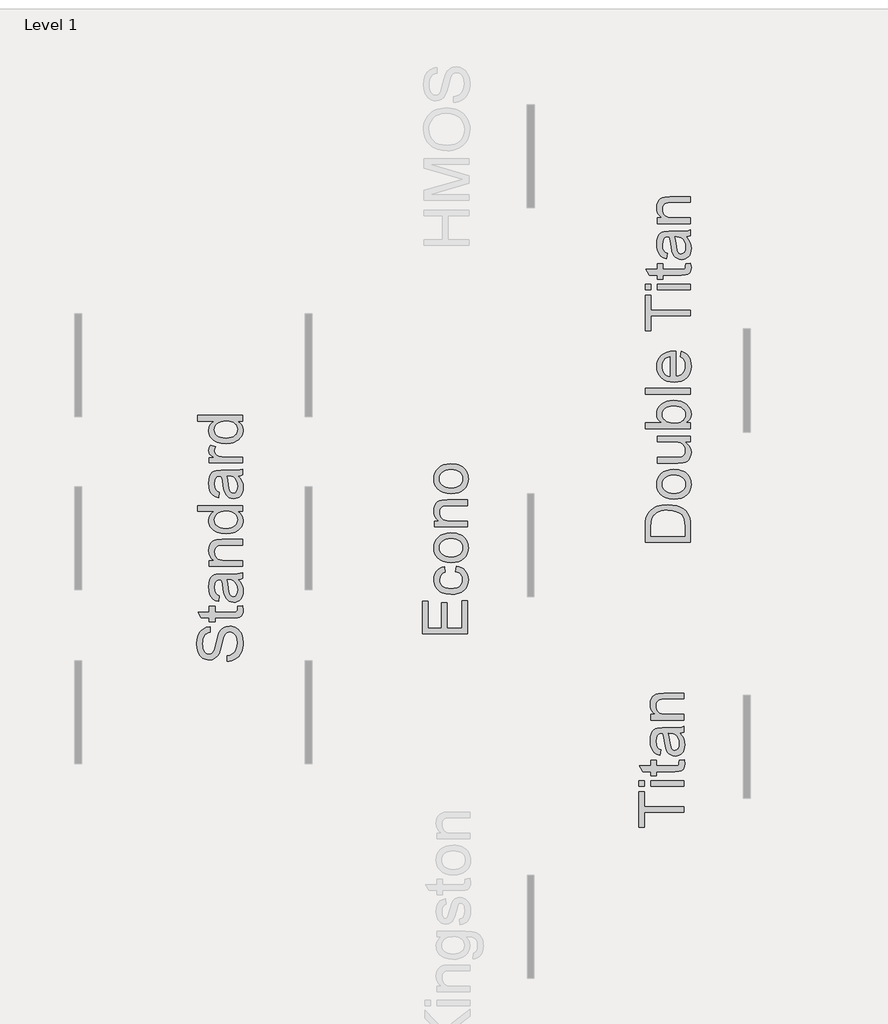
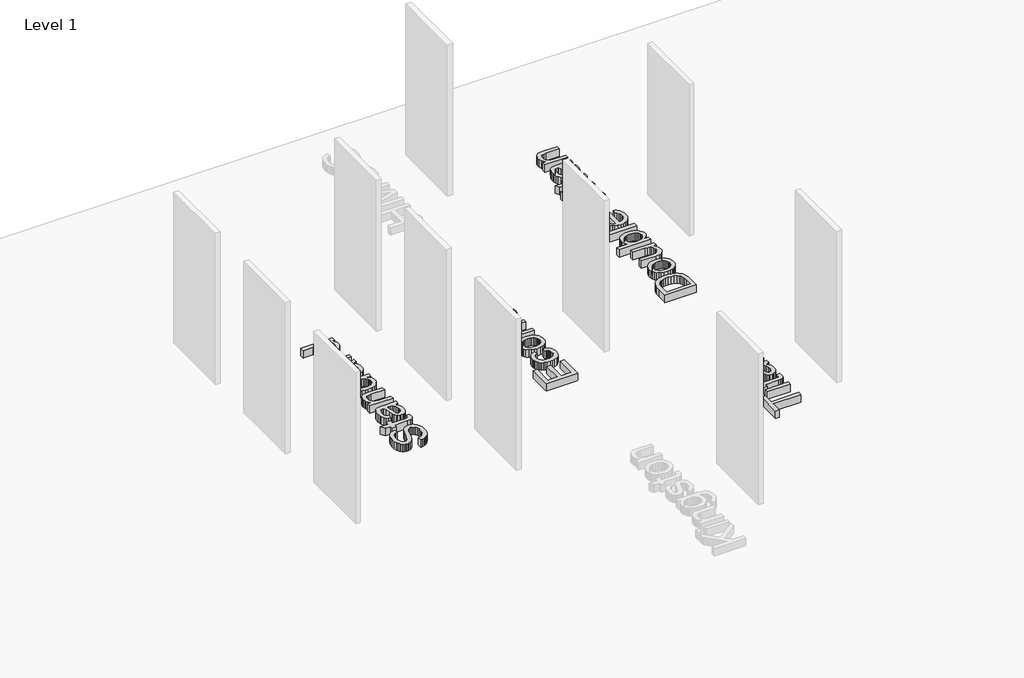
# One storey, part 5 of 6: 4 proxies.
"""IFC4 building model written with IfcOpenShell, lengths in millimetres."""

from ifc_helpers import new_model, si_unit, origin, origin_with_axes, place, context, project, spatial, polyline, outline, extrude, element, save

model = new_model("IFC4")

# Units and contexts
model_context = context("Model", 3, world=origin())
ifc_project = project(units=[si_unit("LENGTHUNIT", "METRE", prefix="MILLI")], contexts=[model_context])

# Site, building, storey
site = spatial("IfcSite", under=ifc_project)
building = spatial("IfcBuilding", under=site)
storey = spatial("IfcBuildingStorey", under=building, Name="Level 1", Elevation=0.0)

# Proxies
placement = place(None, origin())
element("IfcBuildingElementProxy", 1, Name="24\" Arial", ObjectType="24\" Arial", at=placement, inside=storey, context=model_context, shape_type="SweptSolid", body=[
    extrude(outline(polyline([(9013.1766658, 1934.229984), (8487.9828196, 1934.229984), (8487.9828196, 1737.2822917), (8412.9551273, 1737.2822917), (8412.9551273, 2206.2053686), (8487.9828196, 2206.2053686), (8487.9828196, 2009.2576763), (9013.1766658, 2009.2576763), (9013.1766658, 1934.229984)])), origin_with_axes(), (0.0, 0.0, 1.0), 152.4),
    extrude(outline(polyline([(8487.9828196, 2281.2330609), (8412.9551273, 2281.2330609), (8412.9551273, 2356.2607532), (8487.9828196, 2356.2607532), (8487.9828196, 2281.2330609)])), origin_with_axes(), (0.0, 0.0, 1.0), 152.4),
    extrude(outline(polyline([(9013.1766658, 2281.2330609), (8572.3889735, 2281.2330609), (8572.3889735, 2356.2607532), (9013.1766658, 2356.2607532), (9013.1766658, 2281.2330609)])), origin_with_axes(), (0.0, 0.0, 1.0), 152.4),
    extrude(outline(polyline([(8950.6047427, 2628.2361379), (9015.3747427, 2637.6145994), (9022.5551273, 2581.4903686), (9019.441185, 2545.4785417), (9010.0993581, 2518.6253686), (8995.7019542, 2499.6486379), (8977.4212812, 2487.2661379), (8946.0254158, 2480.4520994), (8892.282435, 2478.1807532), (8647.4166658, 2478.1807532), (8647.4166658, 2421.909984), (8572.3889735, 2421.909984), (8572.3889735, 2478.1807532), (8465.2693581, 2478.1807532), (8421.1612812, 2553.2084455), (8572.3889735, 2553.2084455), (8572.3889735, 2628.2361379), (8647.4166658, 2628.2361379), (8647.4166658, 2553.2084455), (8890.0843581, 2553.2084455), (8928.7705119, 2557.164984), (8942.4718581, 2569.9870994), (8946.2635408, 2580.8126282), (8947.527435, 2595.5580609), (8950.6047427, 2628.2361379)])), origin_with_axes(), (0.0, 0.0, 1.0), 152.4),
    extrude(outline(polyline([(8956.9058965, 2984.6176763), (8987.6423388, 2948.7707052), (9007.7547427, 2911.8613302), (9018.8550312, 2873.0469552), (9022.5551273, 2831.484984), (9020.3295744, 2798.0787941), (9013.6529158, 2768.7848398), (9002.5251513, 2743.603121), (8986.9462812, 2722.5336379), (8967.9054398, 2705.8969431), (8946.3917619, 2694.0135898), (8922.4052475, 2686.8835778), (8895.9458965, 2684.5069071), (8864.8431081, 2688.0970994), (8836.5978196, 2698.8676763), (8812.4189735, 2715.4814744), (8793.5155119, 2736.6013302), (8779.2280119, 2761.4212821), (8768.8970504, 2789.1353686), (8757.6135888, 2854.0519071), (8745.7439735, 2930.7647917), (8731.8228196, 2984.1780609), (8715.117435, 2984.6176763), (8681.6333965, 2979.4521955), (8669.2325792, 2972.9953446), (8659.7258965, 2963.9557532), (8650.2375312, 2948.3310898), (8643.4601273, 2929.2994071), (8638.0382042, 2881.014984), (8641.6467138, 2836.3207532), (8652.4722427, 2805.1080609), (8672.49306, 2783.8233494), (8703.687435, 2768.9130609), (8694.3089735, 2693.8853686), (8653.2782042, 2706.9089744), (8621.0397427, 2726.3436379), (8596.3846465, 2754.0027725), (8578.1039735, 2791.6997917), (8566.7838773, 2837.8044552), (8563.0105119, 2890.6865225), (8566.3442619, 2941.4071475), (8576.3455119, 2981.6136379), (8591.3840215, 3011.9287821), (8609.8295504, 3032.9753686), (8632.6345985, 3046.9331571), (8660.7516658, 3055.9819071), (8726.4008965, 3059.6453686), (8819.7458965, 3059.6453686), (8950.0918581, 3063.4553686), (8982.3120023, 3069.0970994), (9013.1766658, 3078.4022917), (9013.1766658, 3003.3745994), (8987.0928196, 2991.3584455), (8956.9058965, 2984.6176763)]), holes=[polyline([(8806.8505119, 2984.6176763), (8819.3429158, 2934.2084455), (8829.8570504, 2863.5769071), (8842.0197427, 2799.0267148), (8850.3358004, 2782.2297436), (8861.802435, 2769.7922917), (8875.5404158, 2762.0990225), (8890.6705119, 2759.5345994), (8912.9809927, 2765.1213782), (8931.2616658, 2781.8817148), (8943.4609927, 2809.4492629), (8947.527435, 2847.4576763), (8943.0396946, 2887.7557532), (8929.5764735, 2923.3645994), (8909.7388292, 2952.2326763), (8886.1278196, 2972.3084455), (8861.802435, 2981.2106571), (8828.0985888, 2984.1780609), (8806.8505119, 2984.6176763)])]), origin_with_axes(), (0.0, 0.0, 1.0), 152.4),
    extrude(outline(polyline([(9013.1766658, 3162.8084455), (8572.3889735, 3162.8084455), (8572.3889735, 3237.8361379), (8633.9351273, 3237.8361379), (8602.9056081, 3263.9016667), (8580.7416658, 3295.2059455), (8567.4433004, 3331.7489744), (8563.0105119, 3373.5307532), (8566.5823869, 3410.5133975), (8577.2980119, 3444.3820994), (8593.8202235, 3472.6273879), (8614.8118581, 3492.7397917), (8640.2179638, 3506.3861859), (8669.9835888, 3515.2334455), (8742.5201273, 3519.189984), (9013.1766658, 3519.189984), (9013.1766658, 3444.1622917), (8752.6312812, 3444.1622917), (8713.8352235, 3442.0008494), (8686.2493581, 3435.5165225), (8666.4849831, 3423.5553205), (8651.1533965, 3404.9632532), (8641.3170023, 3381.1324359), (8638.0382042, 3353.454984), (8639.8790937, 3330.6728326), (8645.4017619, 3309.5117629), (8654.606209, 3289.9717749), (8667.492435, 3272.0528686), (8685.5258244, 3257.0830489), (8710.1717619, 3246.3903205), (8741.4302475, 3239.9746835), (8779.3012812, 3237.8361379), (9013.1766658, 3237.8361379), (9013.1766658, 3162.8084455)])), origin_with_axes(), (0.0, 0.0, 1.0), 152.4),
])
element("IfcBuildingElementProxy", 2, Name="24\" Arial", ObjectType="24\" Arial", at=placement, inside=storey, context=model_context, shape_type="SweptSolid", body=[
    extrude(outline(polyline([(2925.8131328, 3944.4425803), (2925.8131328, 4019.4702726), (2967.4483732, 4028.0794073), (3000.9140943, 4043.6491188), (3027.4741905, 4067.9378688), (3048.3925559, 4102.7041188), (3061.9656809, 4145.2002726), (3066.4900559, 4192.6787342), (3063.0647193, 4234.4788303), (3052.7887097, 4271.0768111), (3036.5229405, 4300.7325323), (3015.1283251, 4321.7058496), (2990.5648155, 4334.1799361), (2964.7923636, 4338.337965), (2939.6793347, 4335.2240226), (2917.9733251, 4325.8821957), (2899.454527, 4306.905465), (2883.9031328, 4274.8868111), (2855.2548636, 4165.642388), (2836.2964501, 4093.9301284), (2818.253902, 4048.0452726), (2793.012652, 4010.6962823), (2762.4227482, 3984.2277726), (2727.1436136, 3968.4565707), (2687.8346713, 3963.1995034), (2665.4921352, 3964.8251645), (2643.8914501, 3969.7021476), (2623.032616, 3977.8304529), (2602.9156328, 3989.2100803), (2584.3602001, 4003.7128087), (2568.1860174, 4021.2104169), (2554.3930847, 4041.7029049), (2542.981402, 4065.1902726), (2527.6498155, 4117.9807534), (2522.5392866, 4176.412965), (2527.8879405, 4239.7175803), (2543.933902, 4295.1091188), (2555.8859453, 4319.3429169), (2570.3474597, 4340.6093111), (2587.3184453, 4358.9083015), (2606.798902, 4374.239888), (2628.2209934, 4386.4850082), (2651.0168828, 4395.5245996), (2675.1865703, 4401.3586621), (2700.7300559, 4403.9871957), (2700.7300559, 4328.9595034), (2676.7893347, 4323.9405611), (2655.9625559, 4315.184888), (2638.2497193, 4302.6924842), (2623.6508251, 4286.4633496), (2612.2391424, 4266.1952486), (2604.0879405, 4241.5859457), (2599.1972193, 4212.6354409), (2597.566979, 4179.3437342), (2599.178902, 4144.9896236), (2604.0146713, 4115.636138), (2612.0742866, 4091.2832775), (2623.3577482, 4071.9310419), (2636.9217145, 4057.1856092), (2651.8228443, 4046.6531573), (2668.0611376, 4040.3336861), (2685.6365943, 4038.2271957), (2700.7575318, 4039.7200563), (2714.4680366, 4044.198638), (2726.7681088, 4051.6629409), (2737.6577482, 4062.112965), (2747.9703924, 4078.5619073), (2758.3929405, 4104.4625803), (2779.5677482, 4184.6191188), (2799.680152, 4267.3400803), (2817.2281328, 4317.382965), (2844.447652, 4360.1538784), (2860.4478203, 4376.6898279), (2878.0415943, 4389.9927726), (2897.1373876, 4400.2184097), (2917.6436136, 4407.5224361), (2962.8873636, 4413.3656573), (2986.356414, 4411.6850443), (3009.1385655, 4406.6432053), (3031.2338179, 4398.2401404), (3052.6421713, 4386.4758496), (3072.5347674, 4371.5564025), (3090.0827482, 4353.6878688), (3105.2861136, 4332.8702486), (3118.1448636, 4309.1035419), (3128.3705006, 4283.079227), (3135.674527, 4255.4887823), (3141.5177482, 4195.6095034), (3139.9424597, 4157.2301645), (3135.2165943, 4122.1021476), (3127.340152, 4090.2254529), (3116.3131328, 4061.6000803), (3102.1172193, 4036.0520154), (3084.7340943, 4013.4072438), (3064.1637578, 3993.6657654), (3040.4062097, 3976.8275803), (3014.230777, 3963.263614), (2986.4067866, 3953.3447919), (2956.9342386, 3947.071114), (2925.8131328, 3944.4425803)])), origin_with_axes(), (0.0, 0.0, 1.0), 152.4),
    extrude(outline(polyline([(3069.5673636, 4675.9625803), (3134.3373636, 4685.3410419), (3141.5177482, 4629.2168111), (3138.4038059, 4593.2049842), (3129.061979, 4566.3518111), (3114.6645751, 4547.3750803), (3096.383902, 4534.9925803), (3064.9880366, 4528.1785419), (3011.2450559, 4525.9071957), (2766.3792866, 4525.9071957), (2766.3792866, 4469.6364265), (2691.3515943, 4469.6364265), (2691.3515943, 4525.9071957), (2584.231979, 4525.9071957), (2540.123902, 4600.934888), (2691.3515943, 4600.934888), (2691.3515943, 4675.9625803), (2766.3792866, 4675.9625803), (2766.3792866, 4600.934888), (3009.046979, 4600.934888), (3047.7331328, 4604.8914265), (3061.434479, 4617.7135419), (3065.2261616, 4628.5390707), (3066.4900559, 4643.2845034), (3069.5673636, 4675.9625803)])), origin_with_axes(), (0.0, 0.0, 1.0), 152.4),
    extrude(outline(polyline([(3075.8685174, 5032.3441188), (3106.6049597, 4996.4971476), (3126.7173636, 4959.5877726), (3137.817652, 4920.7733976), (3141.5177482, 4879.2114265), (3139.2921953, 4845.8052366), (3132.6155366, 4816.5112823), (3121.4877722, 4791.3295635), (3105.908902, 4770.2600803), (3086.8680607, 4753.6233856), (3065.3543828, 4741.7400323), (3041.3678684, 4734.6100202), (3014.9085174, 4732.2333496), (2983.805729, 4735.8235419), (2955.5604405, 4746.5941188), (2931.3815943, 4763.2079169), (2912.4781328, 4784.3277726), (2898.1906328, 4809.1477246), (2887.8596713, 4836.8618111), (2876.5762097, 4901.7783496), (2864.7065943, 4978.4912342), (2850.7854405, 5031.9045034), (2834.0800559, 5032.3441188), (2800.5960174, 5027.178638), (2788.1952001, 5020.7217871), (2778.6885174, 5011.6821957), (2769.200152, 4996.0575323), (2762.4227482, 4977.0258496), (2757.0008251, 4928.7414265), (2760.6093347, 4884.0471957), (2771.4348636, 4852.8345034), (2791.4556809, 4831.5497919), (2822.6500559, 4816.6395034), (2813.2715943, 4741.6118111), (2772.2408251, 4754.6354169), (2740.0023636, 4774.0700803), (2715.3472674, 4801.729215), (2697.0665943, 4839.4262342), (2685.7464982, 4885.5308976), (2681.9731328, 4938.412965), (2685.3068828, 4989.13359), (2695.3081328, 5029.3400803), (2710.3466424, 5059.6552246), (2728.7921713, 5080.7018111), (2751.5972193, 5094.6595996), (2779.7142866, 5103.7083496), (2845.3635174, 5107.3718111), (2938.7085174, 5107.3718111), (3069.054479, 5111.1818111), (3101.2746232, 5116.8235419), (3132.1392866, 5126.1287342), (3132.1392866, 5051.1010419), (3106.0554405, 5039.084888), (3075.8685174, 5032.3441188)]), holes=[polyline([(2925.8131328, 5032.3441188), (2938.3055366, 4981.934888), (2948.8196713, 4911.3033496), (2960.9823636, 4846.7531573), (2969.2984213, 4829.9561861), (2980.7650559, 4817.5187342), (2994.5030366, 4809.825465), (3009.6331328, 4807.2610419), (3031.9436136, 4812.8478207), (3050.2242866, 4829.6081573), (3062.4236136, 4857.1757053), (3066.4900559, 4895.1841188), (3062.0023155, 4935.4821957), (3048.5390943, 4971.0910419), (3028.7014501, 4999.9591188), (3005.0904405, 5020.034888), (2980.7650559, 5028.9370996), (2947.0612097, 5031.9045034), (2925.8131328, 5032.3441188)])]), origin_with_axes(), (0.0, 0.0, 1.0), 152.4),
    extrude(outline(polyline([(3132.1392866, 5210.534888), (2691.3515943, 5210.534888), (2691.3515943, 5285.5625803), (2752.8977482, 5285.5625803), (2721.868229, 5311.6281092), (2699.7042866, 5342.932388), (2686.4059213, 5379.4754169), (2681.9731328, 5421.2571957), (2685.5450078, 5458.23984), (2696.2606328, 5492.1085419), (2712.7828443, 5520.3538303), (2733.774479, 5540.4662342), (2759.1805847, 5554.1126284), (2788.9462097, 5562.959888), (2861.4827482, 5566.9164265), (3132.1392866, 5566.9164265), (3132.1392866, 5491.8887342), (2871.593902, 5491.8887342), (2832.7978443, 5489.7272919), (2805.211979, 5483.242965), (2785.447604, 5471.281763), (2770.1160174, 5452.6896957), (2760.2796232, 5428.8588784), (2757.0008251, 5401.1814265), (2758.8417145, 5378.3992751), (2764.3643828, 5357.2382053), (2773.5688299, 5337.6982174), (2786.4550559, 5319.7793111), (2804.4884453, 5304.8094914), (2829.1343828, 5294.116763), (2860.3928684, 5287.701126), (2898.263902, 5285.5625803), (3132.1392866, 5285.5625803), (3132.1392866, 5210.534888)])), origin_with_axes(), (0.0, 0.0, 1.0), 152.4),
    extrude(outline(polyline([(3132.1392866, 5942.054888), (3061.3612097, 5942.054888), (3096.4296953, 5919.6070275), (3121.4786136, 5892.4149842), (3136.5079645, 5860.4787582), (3141.5177482, 5823.7983496), (3139.7043347, 5799.0333496), (3134.2640943, 5775.2941188), (3125.197027, 5752.5806573), (3112.5031328, 5730.892965), (3096.5624958, 5710.9087823), (3077.7552001, 5693.3058496), (3056.0812458, 5678.0841669), (3031.5406328, 5665.2437342), (3004.6004525, 5655.0501525), (2975.7277963, 5647.7690226), (2912.1850559, 5641.9441188), (2849.4299597, 5647.31109), (2792.7562097, 5663.4120034), (2767.5058011, 5675.4831092), (2745.387652, 5690.2285419), (2726.4017626, 5707.6483015), (2710.5481328, 5727.742388), (2698.0465703, 5749.8010058), (2689.1168828, 5773.1143592), (2683.7590703, 5797.6824481), (2681.9731328, 5823.5052726), (2687.0836616, 5860.2131573), (2702.4152482, 5892.6714265), (2725.916354, 5920.1840226), (2755.5354405, 5942.054888), (2531.9177482, 5942.054888), (2531.9177482, 6017.0825803), (3132.1392866, 6017.0825803), (3132.1392866, 5942.054888)]), holes=[polyline([(2911.891979, 5716.9718111), (2948.2747314, 5719.0874601), (2979.757604, 5725.4344073), (3006.3405967, 5736.0126525), (3028.0237097, 5750.8221957), (3044.8527362, 5768.5075563), (3056.8734693, 5787.7132534), (3064.0859092, 5808.4392871), (3066.4900559, 5830.6856573), (3064.1958131, 5853.037352), (3057.3130847, 5873.6397438), (3045.8418708, 5892.4928327), (3029.7821713, 5909.5966188), (3009.005765, 5923.7971116), (2983.3844309, 5933.9403207), (2952.9181689, 5940.0262462), (2917.606979, 5942.054888), (2878.8933491, 5939.9896116), (2845.693229, 5933.7937823), (2818.0066184, 5923.4674001), (2795.8335174, 5909.010465), (2778.8442145, 5891.5311741), (2766.7089982, 5872.1377246), (2759.4278684, 5850.8301164), (2757.0008251, 5827.6083496), (2759.3317025, 5804.922364), (2766.3243347, 5784.1963303), (2777.9787217, 5765.4302486), (2794.2948636, 5748.6241188), (2815.6299477, 5734.7762342), (2842.3411616, 5724.884888), (2874.4285054, 5718.9500803), (2911.891979, 5716.9718111)])]), origin_with_axes(), (0.0, 0.0, 1.0), 152.4),
    extrude(outline(polyline([(3075.8685174, 6410.977965), (3106.6049597, 6375.1309938), (3126.7173636, 6338.2216188), (3137.817652, 6299.4072438), (3141.5177482, 6257.8452726), (3139.2921953, 6224.4390827), (3132.6155366, 6195.1451284), (3121.4877722, 6169.9634097), (3105.908902, 6148.8939265), (3086.8680607, 6132.2572318), (3065.3543828, 6120.3738784), (3041.3678684, 6113.2438664), (3014.9085174, 6110.8671957), (2983.805729, 6114.457388), (2955.5604405, 6125.227965), (2931.3815943, 6141.841763), (2912.4781328, 6162.9616188), (2898.1906328, 6187.7815707), (2887.8596713, 6215.4956573), (2876.5762097, 6280.4121957), (2864.7065943, 6357.1250803), (2850.7854405, 6410.5383496), (2834.0800559, 6410.977965), (2800.5960174, 6405.8124842), (2788.1952001, 6399.3556332), (2778.6885174, 6390.3160419), (2769.200152, 6374.6913784), (2762.4227482, 6355.6596957), (2757.0008251, 6307.3752726), (2760.6093347, 6262.6810419), (2771.4348636, 6231.4683496), (2791.4556809, 6210.183638), (2822.6500559, 6195.2733496), (2813.2715943, 6120.2456573), (2772.2408251, 6133.269263), (2740.0023636, 6152.7039265), (2715.3472674, 6180.3630611), (2697.0665943, 6218.0600803), (2685.7464982, 6264.1647438), (2681.9731328, 6317.0468111), (2685.3068828, 6367.7674361), (2695.3081328, 6407.9739265), (2710.3466424, 6438.2890707), (2728.7921713, 6459.3356573), (2751.5972193, 6473.2934457), (2779.7142866, 6482.3421957), (2845.3635174, 6486.0056573), (2938.7085174, 6486.0056573), (3069.054479, 6489.8156573), (3101.2746232, 6495.457388), (3132.1392866, 6504.7625803), (3132.1392866, 6429.734888), (3106.0554405, 6417.7187342), (3075.8685174, 6410.977965)]), holes=[polyline([(2925.8131328, 6410.977965), (2938.3055366, 6360.5687342), (2948.8196713, 6289.9371957), (2960.9823636, 6225.3870034), (2969.2984213, 6208.5900323), (2980.7650559, 6196.1525803), (2994.5030366, 6188.4593111), (3009.6331328, 6185.894888), (3031.9436136, 6191.4816669), (3050.2242866, 6208.2420034), (3062.4236136, 6235.8095515), (3066.4900559, 6273.817965), (3062.0023155, 6314.1160419), (3048.5390943, 6349.724888), (3028.7014501, 6378.592965), (3005.0904405, 6398.6687342), (2980.7650559, 6407.5709457), (2947.0612097, 6410.5383496), (2925.8131328, 6410.977965)])]), origin_with_axes(), (0.0, 0.0, 1.0), 152.4),
    extrude(outline(polyline([(3132.1392866, 6589.1687342), (2691.3515943, 6589.1687342), (2691.3515943, 6654.817965), (2756.5612097, 6654.817965), (2718.7542866, 6679.0700803), (2696.4804405, 6701.4171957), (2685.5999597, 6723.8375803), (2681.9731328, 6748.3095034), (2687.761402, 6785.6768111), (2705.1262097, 6823.6302726), (2772.3873636, 6798.5721957), (2760.8474597, 6772.1952726), (2757.0008251, 6745.8183496), (2760.7009213, 6723.4162823), (2771.8012097, 6703.395465), (2789.4590943, 6687.2212823), (2812.831979, 6676.3591188), (2854.741979, 6667.2370996), (2900.461979, 6664.1964265), (3132.1392866, 6664.1964265), (3132.1392866, 6589.1687342)])), origin_with_axes(), (0.0, 0.0, 1.0), 152.4),
    extrude(outline(polyline([(3132.1392866, 7142.497965), (3061.3612097, 7142.497965), (3096.4296953, 7120.0501044), (3121.4786136, 7092.8580611), (3136.5079645, 7060.9218351), (3141.5177482, 7024.2414265), (3139.7043347, 6999.4764265), (3134.2640943, 6975.7371957), (3125.197027, 6953.0237342), (3112.5031328, 6931.3360419), (3096.5624958, 6911.3518592), (3077.7552001, 6893.7489265), (3056.0812458, 6878.5272438), (3031.5406328, 6865.6868111), (3004.6004525, 6855.4932294), (2975.7277963, 6848.2120996), (2912.1850559, 6842.3871957), (2849.4299597, 6847.7541669), (2792.7562097, 6863.8550803), (2767.5058011, 6875.9261861), (2745.387652, 6890.6716188), (2726.4017626, 6908.0913784), (2710.5481328, 6928.185465), (2698.0465703, 6950.2440827), (2689.1168828, 6973.5574361), (2683.7590703, 6998.1255251), (2681.9731328, 7023.9483496), (2687.0836616, 7060.6562342), (2702.4152482, 7093.1145034), (2725.916354, 7120.6270996), (2755.5354405, 7142.497965), (2531.9177482, 7142.497965), (2531.9177482, 7217.5256573), (3132.1392866, 7217.5256573), (3132.1392866, 7142.497965)]), holes=[polyline([(2911.891979, 6917.414888), (2948.2747314, 6919.5305371), (2979.757604, 6925.8774842), (3006.3405967, 6936.4557294), (3028.0237097, 6951.2652726), (3044.8527362, 6968.9506332), (3056.8734693, 6988.1563303), (3064.0859092, 7008.882364), (3066.4900559, 7031.1287342), (3064.1958131, 7053.4804289), (3057.3130847, 7074.0828207), (3045.8418708, 7092.9359097), (3029.7821713, 7110.0396957), (3009.005765, 7124.2401885), (2983.3844309, 7134.3833976), (2952.9181689, 7140.4693231), (2917.606979, 7142.497965), (2878.8933491, 7140.4326885), (2845.693229, 7134.2368592), (2818.0066184, 7123.910477), (2795.8335174, 7109.4535419), (2778.8442145, 7091.974251), (2766.7089982, 7072.5808015), (2759.4278684, 7051.2731933), (2757.0008251, 7028.0514265), (2759.3317025, 7005.3654409), (2766.3243347, 6984.6394073), (2777.9787217, 6965.8733255), (2794.2948636, 6949.0671957), (2815.6299477, 6935.2193111), (2842.3411616, 6925.327965), (2874.4285054, 6919.3931573), (2911.891979, 6917.414888)])]), origin_with_axes(), (0.0, 0.0, 1.0), 152.4),
])
element("IfcBuildingElementProxy", 3, Name="24\" Arial", ObjectType="24\" Arial", at=placement, inside=storey, context=model_context, shape_type="SweptSolid", body=[
    extrude(outline(polyline([(9098.2881748, 5532.7447113), (8498.0666363, 5532.7447113), (8498.0666363, 5739.8035574), (8500.2280786, 5801.6794228), (8506.7124055, 5846.9231728), (8523.3811555, 5894.7679805), (8549.6481748, 5935.1393267), (8571.1160594, 5957.3856969), (8595.3681748, 5976.6463459), (8622.4045209, 5992.9212738), (8652.2250978, 6006.2104805), (8684.5551459, 6016.5322834), (8719.1199055, 6023.9049997), (8794.9535594, 6029.8031728), (8859.3755305, 6025.8099997), (8916.0675978, 6013.8304805), (8964.3337036, 5995.5864421), (9003.4777901, 5972.7997113), (9034.3790882, 5946.5693267), (9057.9168286, 5917.9943267), (9075.3732228, 5885.1880286), (9088.0304824, 5846.2637497), (9095.7237517, 5801.1482209), (9098.2881748, 5749.7681728), (9098.2881748, 5532.7447113)]), holes=[polyline([(9023.2604824, 5607.7724036), (9023.2604824, 5740.5362497), (9020.5495209, 5795.4515382), (9012.4166363, 5837.1050959), (8999.3380786, 5868.5375959), (8981.7900978, 5892.7897113), (8949.3135113, 5918.8552401), (8907.2752901, 5938.4364421), (8855.4922613, 5950.6907209), (8793.7812517, 5954.7754805), (8750.222694, 5952.7743147), (8712.0127901, 5946.7708171), (8679.1515401, 5936.7649877), (8651.638944, 5922.7568267), (8628.8522132, 5905.882007), (8610.1685594, 5887.2762017), (8595.5879824, 5866.9394108), (8585.1104824, 5844.8716344), (8576.0983671, 5801.7160574), (8573.0943286, 5738.4847113), (8573.0943286, 5607.7724036), (9023.2604824, 5607.7724036)])]), origin_with_axes(), (0.0, 0.0, 1.0), 152.4),
    extrude(outline(polyline([(8877.8943286, 6104.8308651), (8820.8084392, 6108.8881488), (8771.6173094, 6121.0599997), (8730.3209392, 6141.346418), (8696.9193286, 6169.7474036), (8675.5705065, 6198.3407209), (8660.3213478, 6229.9014421), (8651.1718526, 6264.4295671), (8648.1220209, 6301.9250959), (8651.835855, 6343.317632), (8662.9773574, 6380.7444709), (8681.5465281, 6414.2056127), (8707.5433671, 6443.7010574), (8740.0886435, 6467.7745791), (8778.3031267, 6484.9699517), (8822.1868166, 6495.2871752), (8871.7397132, 6498.7262497), (8911.9004103, 6497.2059132), (8947.5367324, 6492.6449036), (8978.6486796, 6485.0432209), (9005.2362517, 6474.4008651), (9028.2015762, 6460.8506368), (9048.4467805, 6444.5253363), (9065.9718647, 6425.4249637), (9080.7768286, 6403.549519), (9092.5411195, 6379.750757), (9100.9441844, 6354.8804324), (9105.9860233, 6328.9385454), (9107.6666363, 6301.9250959), (9103.9665401, 6259.9280887), (9092.8662517, 6222.1532209), (9074.3657709, 6188.6004925), (9048.4650978, 6159.2699036), (9015.6038478, 6135.4528243), (8976.2216363, 6118.4406247), (8930.3184632, 6108.233305), (8877.8943286, 6104.8308651)]), holes=[polyline([(8877.7477901, 6179.8585574), (8914.1397012, 6182.0291584), (8945.6500498, 6188.5409613), (8972.2788358, 6199.3939661), (8994.0260594, 6214.5881728), (9010.9191964, 6233.0703363), (9022.9857228, 6253.7872113), (9030.2256387, 6276.7387978), (9032.638944, 6301.9250959), (9030.2119007, 6326.9831728), (9022.9307709, 6349.8431728), (9010.7955546, 6370.5050959), (8993.8062517, 6388.9689421), (8971.8437998, 6404.1631488), (8944.7891363, 6415.0161536), (8912.6422613, 6421.5279565), (8875.4031748, 6423.6985574), (8840.1652541, 6421.5142185), (8809.4791844, 6414.9612017), (8783.3449656, 6404.039507), (8761.7625978, 6388.7491344), (8744.8694608, 6370.2165983), (8732.8029344, 6349.5684132), (8725.5630185, 6326.8045791), (8723.1497132, 6301.9250959), (8725.5538599, 6276.7387978), (8732.7662998, 6253.7872113), (8744.7870329, 6233.0703363), (8761.6160594, 6214.5881728), (8783.2991724, 6199.3939661), (8809.8821651, 6188.5409613), (8841.3650377, 6182.0291584), (8877.7477901, 6179.8585574)])]), origin_with_axes(), (0.0, 0.0, 1.0), 152.4),
    extrude(outline(polyline([(9098.2881748, 6864.4862497), (9022.5277901, 6864.4862497), (9059.7760353, 6837.3399997), (9086.3819248, 6805.7243267), (9102.3454584, 6769.6392305), (9107.6666363, 6729.0847113), (9103.9299055, 6692.5416824), (9092.7197132, 6658.5264421), (9075.8677901, 6629.9880767), (9055.2058671, 6609.8756728), (9030.1111555, 6596.3391824), (8999.9608671, 6587.5285574), (8930.2085594, 6583.1324036), (8657.5004824, 6583.1324036), (8657.5004824, 6658.1600959), (8894.8927901, 6658.1600959), (8942.3712517, 6659.295769), (8971.3858671, 6662.7027882), (8996.9018767, 6673.6382209), (9016.2999055, 6692.3768267), (9028.5541844, 6717.6730286), (9032.638944, 6748.2812497), (9028.4625978, 6780.6479324), (9015.9335594, 6810.9264421), (8996.205819, 6835.8929324), (8970.4333671, 6852.3235574), (8935.1359151, 6861.4455767), (8886.8331748, 6864.4862497), (8657.5004824, 6864.4862497), (8657.5004824, 6939.5139421), (9098.2881748, 6939.5139421), (9098.2881748, 6864.4862497)])), origin_with_axes(), (0.0, 0.0, 1.0), 152.4),
    extrude(outline(polyline([(9098.2881748, 7117.7047113), (9098.2881748, 7042.677019), (8498.0666363, 7042.677019), (8498.0666363, 7117.7047113), (8720.6585594, 7117.7047113), (8688.9238238, 7142.3781247), (8666.2561555, 7170.2387497), (8652.6555546, 7201.2865863), (8648.1220209, 7235.5216344), (8652.2067805, 7274.1711536), (8664.4610594, 7310.6958651), (8684.1155305, 7343.0075959), (8710.4008671, 7369.0181728), (8743.0606267, 7389.4053363), (8781.8383671, 7404.8468267), (8825.1221651, 7414.5733171), (8871.3000978, 7417.8154805), (8924.5851459, 7414.4588339), (8971.4591363, 7404.388894), (9011.922069, 7387.6056608), (9045.973944, 7364.1091344), (9072.9644969, 7335.9050598), (9092.2434632, 7304.9991824), (9103.810843, 7271.3915022), (9107.6666363, 7235.082019), (9102.6934873, 7199.7204565), (9087.7740401, 7168.3703844), (9062.9082949, 7141.0318026), (9028.0962517, 7117.7047113), (9098.2881748, 7117.7047113)]), holes=[polyline([(8874.8170209, 7117.7047113), (8937.388944, 7122.8335574), (8961.0915401, 7129.2446151), (8979.7385594, 7138.2200959), (9002.8824776, 7156.4000238), (9019.4138478, 7177.5290382), (9029.3326699, 7201.6071392), (9032.638944, 7228.6343267), (9030.2027421, 7251.0730286), (9022.8941363, 7271.9364421), (9010.7131267, 7291.2245671), (8993.6597132, 7308.9374036), (8971.7796892, 7323.7469469), (8945.1188478, 7334.3251921), (8913.6771892, 7340.6721392), (8877.4547132, 7342.7877882), (8840.5453382, 7340.7591464), (8808.801444, 7334.6732209), (8782.2230305, 7324.5300118), (8760.8100978, 7310.329519), (8744.3336796, 7293.2532089), (8732.5648094, 7274.4825478), (8725.5034873, 7254.0175358), (8723.1497132, 7231.8581728), (8725.5859151, 7209.4194709), (8732.8945209, 7188.5560574), (8745.0755305, 7169.2679324), (8762.128944, 7151.5550959), (8783.7891603, 7136.7455526), (8809.7905786, 7126.1673074), (8840.1331988, 7119.8203603), (8874.8170209, 7117.7047113)])]), origin_with_axes(), (0.0, 0.0, 1.0), 152.4),
    extrude(outline(polyline([(9098.2881748, 7502.2216344), (8498.0666363, 7502.2216344), (8498.0666363, 7577.2493267), (9098.2881748, 7577.2493267), (9098.2881748, 7502.2216344)])), origin_with_axes(), (0.0, 0.0, 1.0), 152.4),
    extrude(outline(polyline([(8966.9897132, 7998.4008651), (8976.3681748, 8071.9631728), (9005.8315642, 8060.6842906), (9031.7963478, 8045.4580286), (9054.2625257, 8026.2843868), (9073.2300978, 8003.1633651), (9088.2960834, 7976.3330887), (9099.0575017, 7946.0316824), (9105.5143526, 7912.2591464), (9107.6666363, 7875.0154805), (9103.9528022, 7828.462043), (9092.8112998, 7786.9824997), (9074.2421291, 7750.5768507), (9048.2452901, 7719.2450959), (9015.5443166, 7694.0496392), (8976.8627421, 7676.0528844), (8932.2005666, 7665.2548315), (8881.5577901, 7661.6554805), (8829.1977661, 7665.2914661), (8783.0473094, 7676.1994228), (8743.1064199, 7694.3793507), (8709.3750978, 7719.8312497), (8682.5768767, 7751.0805767), (8663.4352901, 7786.6527882), (8651.9503382, 7826.5478844), (8648.1220209, 7870.7658651), (8651.9411796, 7913.5596752), (8663.3986555, 7952.2595671), (8682.4944488, 7986.8655406), (8709.2285594, 8017.3775959), (8742.8866123, 8042.284555), (8782.7542324, 8060.0752401), (8828.8314199, 8070.7496512), (8881.1181748, 8074.3077882), (8901.3404824, 8073.8681728), (8901.3404824, 7736.6831728), (8931.2801219, 7741.0289541), (8957.5013478, 7749.670144), (8980.0041603, 7762.6067425), (8998.7885594, 7779.8387497), (9013.5981026, 7800.4136656), (9024.1763478, 7823.3789901), (9030.5232949, 7848.7347233), (9032.638944, 7876.4808651), (9028.7190401, 7916.4125959), (9016.9593286, 7950.0431728), (8996.6271171, 7977.3725959), (8966.9897132, 7998.4008651)]), holes=[polyline([(8826.3127901, 7736.6831728), (8826.3127901, 7999.2800959), (8786.6741363, 7989.1323074), (8771.0861074, 7980.4041103), (8758.318944, 7969.2397113), (8742.9324055, 7948.7792786), (8731.9420209, 7925.4979805), (8725.3477901, 7899.3958171), (8723.1497132, 7870.4727882), (8724.9035954, 7844.0912858), (8730.1652421, 7819.8987017), (8738.9346531, 7797.8950358), (8751.2118286, 7778.0802882), (8766.428932, 7761.4527522), (8784.0181267, 7749.0107209), (8803.9794127, 7740.7541945), (8826.3127901, 7736.6831728)])]), origin_with_axes(), (0.0, 0.0, 1.0), 152.4),
    extrude(outline(polyline([(9098.2881748, 8543.2308651), (8573.0943286, 8543.2308651), (8573.0943286, 8346.2831728), (8498.0666363, 8346.2831728), (8498.0666363, 8815.2062497), (8573.0943286, 8815.2062497), (8573.0943286, 8618.2585574), (9098.2881748, 8618.2585574), (9098.2881748, 8543.2308651)])), origin_with_axes(), (0.0, 0.0, 1.0), 152.4),
    extrude(outline(polyline([(9098.2881748, 8890.2339421), (8657.5004824, 8890.2339421), (8657.5004824, 8965.2616344), (9098.2881748, 8965.2616344), (9098.2881748, 8890.2339421)])), origin_with_axes(), (0.0, 0.0, 1.0), 152.4),
    extrude(outline(polyline([(8573.0943286, 8890.2339421), (8498.0666363, 8890.2339421), (8498.0666363, 8965.2616344), (8573.0943286, 8965.2616344), (8573.0943286, 8890.2339421)])), origin_with_axes(), (0.0, 0.0, 1.0), 152.4),
    extrude(outline(polyline([(9035.7162517, 9237.237019), (9100.4862517, 9246.6154805), (9107.6666363, 9190.4912497), (9104.552694, 9154.4794228), (9095.2108671, 9127.6262497), (9080.8134632, 9108.649519), (9062.5327901, 9096.267019), (9031.1369248, 9089.4529805), (8977.393944, 9087.1816344), (8732.5281748, 9087.1816344), (8732.5281748, 9030.9108651), (8657.5004824, 9030.9108651), (8657.5004824, 9087.1816344), (8550.3808671, 9087.1816344), (8506.2727901, 9162.2093267), (8657.5004824, 9162.2093267), (8657.5004824, 9237.237019), (8732.5281748, 9237.237019), (8732.5281748, 9162.2093267), (8975.1958671, 9162.2093267), (9013.8820209, 9166.1658651), (9027.5833671, 9178.9879805), (9031.3750498, 9189.8135094), (9032.638944, 9204.5589421), (9035.7162517, 9237.237019)])), origin_with_axes(), (0.0, 0.0, 1.0), 152.4),
    extrude(outline(polyline([(9042.0174055, 9593.6185574), (9072.7538478, 9557.7715863), (9092.8662517, 9520.8622113), (9103.9665401, 9482.0478363), (9107.6666363, 9440.4858651), (9105.4410834, 9407.0796752), (9098.7644248, 9377.7857209), (9087.6366603, 9352.6040022), (9072.0577901, 9331.534519), (9053.0169488, 9314.8978243), (9031.5032709, 9303.0144709), (9007.5167565, 9295.8844589), (8981.0574055, 9293.5077882), (8949.9546171, 9297.0979805), (8921.7093286, 9307.8685574), (8897.5304824, 9324.4823555), (8878.6270209, 9345.6022113), (8864.3395209, 9370.4221632), (8854.0085594, 9398.1362497), (8842.7250978, 9463.0527882), (8830.8554824, 9539.7656728), (8816.9343286, 9593.1789421), (8800.228944, 9593.6185574), (8766.7449055, 9588.4530767), (8754.3440882, 9581.9962257), (8744.8374055, 9572.9566344), (8735.3490401, 9557.3319709), (8728.5716363, 9538.3002882), (8723.1497132, 9490.0158651), (8726.7582228, 9445.3216344), (8737.5837517, 9414.1089421), (8757.604569, 9392.8242305), (8788.798944, 9377.9139421), (8779.4204824, 9302.8862497), (8738.3897132, 9315.9098555), (8706.1512517, 9335.344519), (8681.4961555, 9363.0036536), (8663.2154824, 9400.7006728), (8651.8953863, 9446.8053363), (8648.1220209, 9499.6874036), (8651.4557709, 9550.4080286), (8661.4570209, 9590.614519), (8676.4955305, 9620.9296632), (8694.9410594, 9641.9762497), (8717.7461074, 9655.9340382), (8745.8631748, 9664.9827882), (8811.5124055, 9668.6462497), (8904.8574055, 9668.6462497), (9035.2033671, 9672.4562497), (9067.4235113, 9678.0979805), (9098.2881748, 9687.4031728), (9098.2881748, 9612.3754805), (9072.2043286, 9600.3593267), (9042.0174055, 9593.6185574)]), holes=[polyline([(8891.9620209, 9593.6185574), (8904.4544248, 9543.2093267), (8914.9685594, 9472.5777882), (8927.1312517, 9408.0275959), (8935.4473094, 9391.2306247), (8946.913944, 9378.7931728), (8960.6519248, 9371.0999036), (8975.7820209, 9368.5354805), (8998.0925017, 9374.1222594), (9016.3731748, 9390.8825959), (9028.5725017, 9418.450144), (9032.638944, 9456.4585574), (9028.1512036, 9496.7566344), (9014.6879824, 9532.3654805), (8994.8503382, 9561.2335574), (8971.2393286, 9581.3093267), (8946.913944, 9590.2115382), (8913.2100978, 9593.1789421), (8891.9620209, 9593.6185574)])]), origin_with_axes(), (0.0, 0.0, 1.0), 152.4),
    extrude(outline(polyline([(9098.2881748, 9771.8093267), (8657.5004824, 9771.8093267), (8657.5004824, 9846.837019), (8719.0466363, 9846.837019), (8688.0171171, 9872.9025478), (8665.8531748, 9904.2068267), (8652.5548094, 9940.7498555), (8648.1220209, 9982.5316344), (8651.6938959, 10019.5142786), (8662.4095209, 10053.3829805), (8678.9317324, 10081.628269), (8699.9233671, 10101.7406728), (8725.3294728, 10115.3870671), (8755.0950978, 10124.2343267), (8827.6316363, 10128.1908651), (9098.2881748, 10128.1908651), (9098.2881748, 10053.1631728), (8837.7427901, 10053.1631728), (8798.9467324, 10051.0017305), (8771.3608671, 10044.5174036), (8751.5964921, 10032.5562017), (8736.2649055, 10013.9641344), (8726.4285113, 9990.1333171), (8723.1497132, 9962.4558651), (8724.9906026, 9939.6737137), (8730.5132709, 9918.512644), (8739.717718, 9898.972656), (8752.603944, 9881.0537497), (8770.6373334, 9866.08393), (8795.2832709, 9855.3912017), (8826.5417565, 9848.9755647), (8864.4127901, 9846.837019), (9098.2881748, 9846.837019), (9098.2881748, 9771.8093267)])), origin_with_axes(), (0.0, 0.0, 1.0), 152.4),
])
element("IfcBuildingElementProxy", 4, Name="24\" Arial", ObjectType="24\" Arial", at=placement, inside=storey, context=model_context, shape_type="SweptSolid", body=[
    extrude(outline(polyline([(6130.9511204, 4312.1579237), (5530.729582, 4312.1579237), (5530.729582, 4743.5671545), (5605.7572743, 4743.5671545), (5605.7572743, 4387.185616), (5783.9480435, 4387.185616), (5783.9480435, 4724.8102314), (5858.9757358, 4724.8102314), (5858.9757358, 4387.185616), (6055.9234281, 4387.185616), (6055.9234281, 4752.945616), (6130.9511204, 4752.945616), (6130.9511204, 4312.1579237)])), origin_with_axes(), (0.0, 0.0, 1.0), 152.4),
    extrude(outline(polyline([(5971.5172743, 5137.4625391), (5980.8957358, 5212.4902314), (6016.2985122, 5204.3298708), (6047.6256877, 5191.571866), (6074.8772622, 5174.216217), (6098.0532358, 5152.2629237), (6116.5491372, 5126.6370103), (6129.7604954, 5098.2635007), (6137.6873103, 5067.1423949), (6140.329582, 5033.273693), (6136.6432238, 4991.1942579), (6125.5841493, 4953.4651833), (6107.1523584, 4920.0864694), (6081.3478512, 4891.058116), (6048.6560363, 4867.5615896), (6009.5623223, 4850.7783564), (5964.0667094, 4840.7084165), (5912.1691973, 4837.3517699), (5845.4026108, 4843.0850872), (5815.3576469, 4850.2517338), (5787.5382358, 4860.2850391), (5762.5030555, 4873.253693), (5740.8107839, 4889.2263853), (5722.4614209, 4908.203116), (5707.4549666, 4930.1838853), (5695.7868416, 4954.174979), (5687.4524666, 4979.1826833), (5682.4518416, 5005.2069982), (5680.7849666, 5032.2479237), (5683.07463, 5065.5350511), (5689.9436204, 5095.6441257), (5701.3919377, 5122.5751473), (5717.419582, 5146.328116), (5737.660207, 5166.5000511), (5761.7474666, 5182.6879718), (5789.6813608, 5194.8918781), (5821.4618897, 5203.1117699), (5830.8403512, 5128.0840776), (5798.1073223, 5114.474318), (5774.6428512, 5093.281193), (5760.520207, 5065.6770103), (5755.8126589, 5032.8340776), (5758.1297983, 5007.3409646), (5765.0812166, 4984.3481641), (5776.6669137, 4963.8556761), (5792.8868897, 4945.8635007), (5814.1166493, 4931.2142338), (5840.7316973, 4920.7504718), (5872.7320339, 4914.4722146), (5910.1176589, 4912.3794622), (5948.0665411, 4914.4264213), (5980.4378031, 4920.5672987), (6007.2314449, 4930.8020944), (6028.4474666, 4945.1308083), (6044.5712767, 4962.7657963), (6056.0882839, 4982.9194141), (6062.9984882, 5005.5916617), (6065.3018897, 5030.7825391), (6059.550255, 5069.6335487), (6052.3607118, 5086.4350992), (6042.2953512, 5101.4873468), (6029.2442695, 5114.3689934), (6013.0975627, 5124.658741), (5993.855231, 5132.3565896), (5971.5172743, 5137.4625391)])), origin_with_axes(), (0.0, 0.0, 1.0), 152.4),
    extrude(outline(polyline([(5910.5572743, 5259.3825391), (5853.4713848, 5263.4398228), (5804.280255, 5275.6116737), (5762.9838848, 5295.898092), (5729.5822743, 5324.2990776), (5708.2334522, 5352.8923949), (5692.9842935, 5384.453116), (5683.8347983, 5418.981241), (5680.7849666, 5456.4767699), (5684.4988007, 5497.8693059), (5695.6403031, 5535.2961449), (5714.2094738, 5568.7572867), (5740.2063127, 5598.2527314), (5772.7515892, 5622.3262531), (5810.9660723, 5639.5216257), (5854.8497622, 5649.8388492), (5904.4026589, 5653.2779237), (5944.563356, 5651.7575872), (5980.1996781, 5647.1965776), (6011.3116252, 5639.5948949), (6037.8991973, 5628.9525391), (6060.8645219, 5615.4023107), (6081.1097262, 5599.0770103), (6098.6348103, 5579.9766377), (6113.4397743, 5558.101193), (6125.2040651, 5534.3024309), (6133.60713, 5509.4321064), (6138.648969, 5483.4902194), (6140.329582, 5456.4767699), (6136.6294858, 5414.4797627), (6125.5291973, 5376.7048949), (6107.0287166, 5343.1521665), (6081.1280435, 5313.8215776), (6048.2667935, 5290.0044982), (6008.884582, 5272.9922987), (5962.9814089, 5262.784979), (5910.5572743, 5259.3825391)]), holes=[polyline([(5910.4107358, 5334.4102314), (5946.8026469, 5336.5808324), (5978.3129954, 5343.0926353), (6004.9417815, 5353.9456401), (6026.689005, 5369.1398468), (6043.5821421, 5387.6220103), (6055.6486685, 5408.3388853), (6062.8885844, 5431.2904718), (6065.3018897, 5456.4767699), (6062.8748464, 5481.5348468), (6055.5937166, 5504.3948468), (6043.4585002, 5525.0567699), (6026.4691973, 5543.520616), (6004.5067454, 5558.7148228), (5977.452082, 5569.5678276), (5945.305207, 5576.0796305), (5908.0661204, 5578.2502314), (5872.8281997, 5576.0658925), (5842.14213, 5569.5128757), (5816.0079113, 5558.5911809), (5794.4255435, 5543.3008083), (5777.5324065, 5524.7682723), (5765.46588, 5504.1200872), (5758.2259642, 5481.3562531), (5755.8126589, 5456.4767699), (5758.2168055, 5431.2904718), (5765.4292454, 5408.3388853), (5777.4499786, 5387.6220103), (5794.279005, 5369.1398468), (5815.962118, 5353.9456401), (5842.5451108, 5343.0926353), (5874.0279834, 5336.5808324), (5910.4107358, 5334.4102314)])]), origin_with_axes(), (0.0, 0.0, 1.0), 152.4),
    extrude(outline(polyline([(6130.9511204, 5737.6840776), (5690.1634281, 5737.6840776), (5690.1634281, 5812.7117699), (5751.709582, 5812.7117699), (5720.6800627, 5838.7772987), (5698.5161204, 5870.0815776), (5685.217755, 5906.6246064), (5680.7849666, 5948.4063853), (5684.3568416, 5985.3890295), (5695.0724666, 6019.2577314), (5711.5946781, 6047.5030199), (5732.5863127, 6067.6154237), (5757.9924185, 6081.261818), (5787.7580435, 6090.1090776), (5860.294582, 6094.065616), (6130.9511204, 6094.065616), (6130.9511204, 6019.0379237), (5870.4057358, 6019.0379237), (5831.6096781, 6016.8764814), (5804.0238127, 6010.3921545), (5784.2594377, 5998.4309526), (5768.9278512, 5979.8388853), (5759.091457, 5956.008068), (5755.8126589, 5928.330616), (5757.6535483, 5905.5484646), (5763.1762166, 5884.3873949), (5772.3806637, 5864.8474069), (5785.2668897, 5846.9285007), (5803.3002791, 5831.9586809), (5827.9462166, 5821.2659526), (5859.2047022, 5814.8503156), (5897.0757358, 5812.7117699), (6130.9511204, 5812.7117699), (6130.9511204, 5737.6840776)])), origin_with_axes(), (0.0, 0.0, 1.0), 152.4),
    extrude(outline(polyline([(5910.5572743, 6178.4717699), (5853.4713848, 6182.5290535), (5804.280255, 6194.7009045), (5762.9838848, 6214.9873228), (5729.5822743, 6243.3883083), (5708.2334522, 6271.9816257), (5692.9842935, 6303.5423468), (5683.8347983, 6338.0704718), (5680.7849666, 6375.5660007), (5684.4988007, 6416.9585367), (5695.6403031, 6454.3853757), (5714.2094738, 6487.8465175), (5740.2063127, 6517.3419622), (5772.7515892, 6541.4154838), (5810.9660723, 6558.6108564), (5854.8497622, 6568.92808), (5904.4026589, 6572.3671545), (5944.563356, 6570.846818), (5980.1996781, 6566.2858083), (6011.3116252, 6558.6841257), (6037.8991973, 6548.0417699), (6060.8645219, 6534.4915415), (6081.1097262, 6518.166241), (6098.6348103, 6499.0658684), (6113.4397743, 6477.1904237), (6125.2040651, 6453.3916617), (6133.60713, 6428.5213372), (6138.648969, 6402.5794502), (6140.329582, 6375.5660007), (6136.6294858, 6333.5689934), (6125.5291973, 6295.7941257), (6107.0287166, 6262.2413973), (6081.1280435, 6232.9108083), (6048.2667935, 6209.093729), (6008.884582, 6192.0815295), (5962.9814089, 6181.8742098), (5910.5572743, 6178.4717699)]), holes=[polyline([(5910.4107358, 6253.4994622), (5946.8026469, 6255.6700632), (5978.3129954, 6262.181866), (6004.9417815, 6273.0348708), (6026.689005, 6288.2290776), (6043.5821421, 6306.711241), (6055.6486685, 6327.428116), (6062.8885844, 6350.3797026), (6065.3018897, 6375.5660007), (6062.8748464, 6400.6240776), (6055.5937166, 6423.4840776), (6043.4585002, 6444.1460007), (6026.4691973, 6462.6098468), (6004.5067454, 6477.8040535), (5977.452082, 6488.6570583), (5945.305207, 6495.1688612), (5908.0661204, 6497.3394622), (5872.8281997, 6495.1551232), (5842.14213, 6488.6021064), (5816.0079113, 6477.6804117), (5794.4255435, 6462.3900391), (5777.5324065, 6443.8575031), (5765.46588, 6423.209318), (5758.2259642, 6400.4454838), (5755.8126589, 6375.5660007), (5758.2168055, 6350.3797026), (5765.4292454, 6327.428116), (5777.4499786, 6306.711241), (5794.279005, 6288.2290776), (5815.962118, 6273.0348708), (5842.5451108, 6262.181866), (5874.0279834, 6255.6700632), (5910.4107358, 6253.4994622)])]), origin_with_axes(), (0.0, 0.0, 1.0), 152.4),
])

save(model, "model.ifc")
